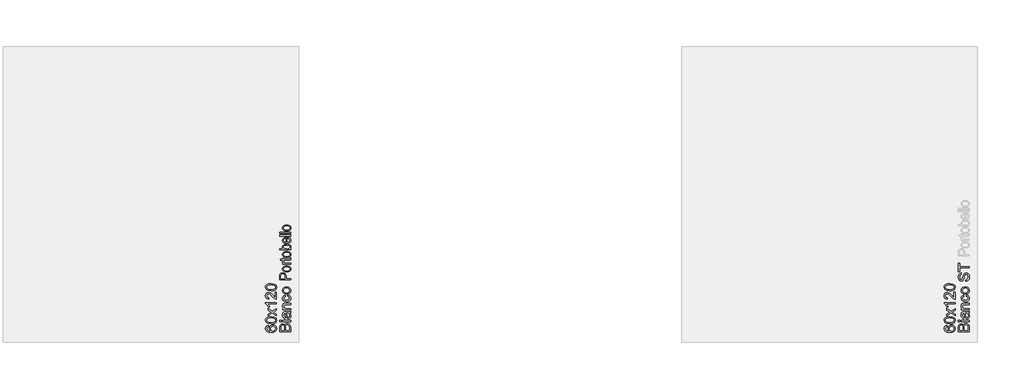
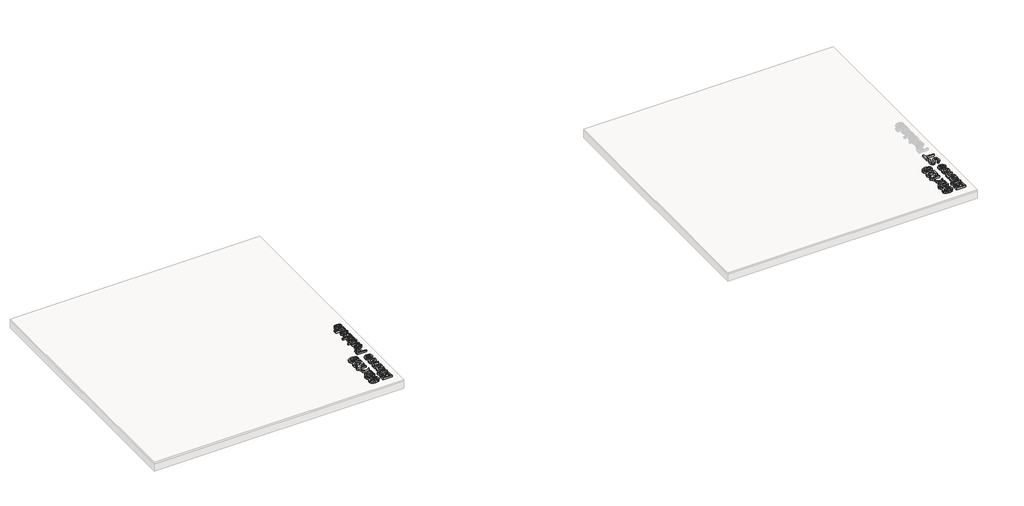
# One storey, part 9 of 14: 5 proxies.
"""IFC4 building model written with IfcOpenShell, lengths in millimetres."""

from ifc_helpers import new_model, si_unit, frame, origin, place, context, project, spatial, polyline, outline, extrude, element, save

model = new_model("IFC4")

# Units and contexts
model_context = context("Model", 3, world=origin())
ifc_project = project(units=[si_unit("LENGTHUNIT", "METRE", prefix="MILLI")], contexts=[model_context])

# Site, building, storey
site = spatial("IfcSite", under=ifc_project)
building = spatial("IfcBuilding", under=site)
storey = spatial("IfcBuildingStorey", under=building, Name="PORTOBELLO - SHOWROOM", Elevation=0.0)

# Proxies
placement = place(None, origin())
element("IfcBuildingElementProxy", 1, Name="10mm Arial", ObjectType="10mm Arial", at=placement, inside=storey, context=model_context, shape_type="SweptSolid", body=[
    extrude(outline(polyline([(-10552.2181326, 11229.8621307), (-10652.6744428, 11229.8621307), (-10652.6744428, 11268.1954346), (-10649.7191241, 11286.9696791), (-10640.6324388, 11298.0551899), (-10627.7810945, 11302.0651036), (-10616.0456588, 11298.692852), (-10607.1551773, 11288.5025207), (-10597.7864491, 11300.8756185), (-10582.1637271, 11305.2043633), (-10568.6624578, 11302.2490446), (-10559.048475, 11294.9281929), (-10553.947178, 11284.0020977), (-10552.2181326, 11267.901129), (-10552.2181326, 11229.8621307)]), holes=[polyline([(-10611.8640668, 11242.4191695), (-10611.8640668, 11265.3504805), (-10612.9431873, 11278.7413851), (-10617.5907632, 11286.7980008), (-10625.7700062, 11289.5080648), (-10633.961512, 11286.9819418), (-10638.8052916, 11279.7469292), (-10640.117404, 11263.6091724), (-10640.117404, 11242.4191695), (-10611.8640668, 11242.4191695)]), polyline([(-10564.7751714, 11242.4191695), (-10564.7751714, 11268.1709091), (-10565.2656807, 11277.4905863), (-10568.0002702, 11285.3755238), (-10573.5798138, 11290.5994481), (-10582.0410997, 11292.6473245), (-10591.8022353, 11290.2438288), (-10597.6270336, 11282.4569933), (-10599.307028, 11266.9446358), (-10599.307028, 11242.4191695), (-10564.7751714, 11242.4191695)])]), frame((0.0, 0.0, 19.0), z_axis=(0.0, 0.0, 1.0), x_axis=(1.0, 0.0, 0.0)), (0.0, 0.0, 1.0), 20.0),
    extrude(outline(polyline([(-10640.117404, 11320.9006618), (-10652.6744428, 11320.9006618), (-10652.6744428, 11333.4577005), (-10640.117404, 11333.4577005), (-10640.117404, 11320.9006618)])), frame((0.0, 0.0, 19.0), z_axis=(0.0, 0.0, 1.0), x_axis=(1.0, 0.0, 0.0)), (0.0, 0.0, 1.0), 20.0),
    extrude(outline(polyline([(-10552.2181326, 11320.9006618), (-10625.9907354, 11320.9006618), (-10625.9907354, 11333.4577005), (-10552.2181326, 11333.4577005), (-10552.2181326, 11320.9006618)])), frame((0.0, 0.0, 19.0), z_axis=(0.0, 0.0, 1.0), x_axis=(1.0, 0.0, 0.0)), (0.0, 0.0, 1.0), 20.0),
    extrude(outline(polyline([(-10561.6359117, 11399.3821541), (-10553.1255749, 11387.20526), (-10550.6485028, 11373.7530417), (-10552.1384249, 11363.2592078), (-10556.6081911, 11355.5183575), (-10563.3956139, 11350.7450886), (-10571.8385057, 11349.153999), (-10581.7713196, 11351.5574947), (-10588.9818067, 11357.8728023), (-10593.102085, 11366.665182), (-10594.990546, 11377.5299636), (-10599.307028, 11399.3085777), (-10602.1029312, 11399.3821541), (-10611.3735575, 11395.9240633), (-10615.0033265, 11382.0426494), (-10612.5875681, 11369.3384578), (-10604.0159176, 11363.2806676), (-10605.5855474, 11350.7236288), (-10617.8482806, 11356.1560196), (-10625.0342422, 11367.0943776), (-10627.5603653, 11383.6613301), (-10625.3285478, 11398.879382), (-10619.7244788, 11407.475558), (-10611.2018792, 11411.3260562), (-10600.2144703, 11411.9391928), (-10584.5917482, 11411.9391928), (-10562.7763459, 11412.576855), (-10552.2181326, 11415.0784525), (-10552.2181326, 11402.5214138), (-10561.6359117, 11399.3821541)]), holes=[polyline([(-10586.7499893, 11399.3821541), (-10582.899491, 11379.1241189), (-10580.8638773, 11368.3206509), (-10577.5529394, 11363.4278204), (-10572.7214225, 11361.7110378), (-10565.9278683, 11365.4511714), (-10563.2055416, 11376.4263176), (-10566.2099112, 11389.1305091), (-10573.481712, 11397.3220149), (-10583.1937966, 11399.3085777), (-10586.7499893, 11399.3821541)])]), frame((0.0, 0.0, 19.0), z_axis=(0.0, 0.0, 1.0), x_axis=(1.0, 0.0, 0.0)), (0.0, 0.0, 1.0), 20.0),
    extrude(outline(polyline([(-10552.2181326, 11429.2051211), (-10625.9907354, 11429.2051211), (-10625.9907354, 11441.7621599), (-10615.6900395, 11441.7621599), (-10624.5927838, 11451.36388), (-10627.5603653, 11464.4727418), (-10625.1691323, 11476.3308047), (-10618.8906129, 11484.4242086), (-10609.6567748, 11488.1888677), (-10597.516669, 11488.8510553), (-10552.2181326, 11488.8510553), (-10552.2181326, 11476.2940165), (-10595.8244118, 11476.2940165), (-10606.9344481, 11474.847014), (-10612.8082973, 11469.7334543), (-10615.0033265, 11461.1127529), (-10610.0737078, 11447.4888563), (-10602.9306657, 11443.193834), (-10591.3607769, 11441.7621599), (-10552.2181326, 11441.7621599), (-10552.2181326, 11429.2051211)])), frame((0.0, 0.0, 19.0), z_axis=(0.0, 0.0, 1.0), x_axis=(1.0, 0.0, 0.0)), (0.0, 0.0, 1.0), 20.0),
    extrude(outline(polyline([(-10578.90184, 11553.205879), (-10577.3322102, 11565.7629178), (-10566.1639259, 11562.2619074), (-10557.7240998, 11555.6829511), (-10552.4174021, 11546.6453167), (-10550.6485028, 11535.7682724), (-10553.1163779, 11522.4110903), (-10560.520003, 11511.9663073), (-10572.5344158, 11505.2248698), (-10588.8346539, 11502.9777239), (-10609.693563, 11506.8159594), (-10623.0967304, 11518.5146068), (-10627.5603653, 11535.5965942), (-10626.0275236, 11546.206924), (-10621.4289987, 11554.6896697), (-10614.0100451, 11560.775051), (-10604.0159176, 11564.1932879), (-10602.4462877, 11551.6362491), (-10611.8518041, 11545.8114509), (-10615.0033265, 11535.694696), (-10613.4520907, 11527.5798323), (-10608.7983835, 11521.1388317), (-10600.7908187, 11516.9357799), (-10589.1780104, 11515.5347627), (-10577.4088523, 11516.9051231), (-10569.3736964, 11521.0162044), (-10564.7475803, 11527.340709), (-10563.2055416, 11535.3513395), (-10567.0560398, 11547.184877), (-10578.90184, 11553.205879)])), frame((0.0, 0.0, 19.0), z_axis=(0.0, 0.0, 1.0), x_axis=(1.0, 0.0, 0.0)), (0.0, 0.0, 1.0), 20.0),
    extrude(outline(polyline([(-10589.104434, 11573.611067), (-10606.8915285, 11576.3272624), (-10619.393385, 11584.4758486), (-10625.5186202, 11594.5435525), (-10627.5603653, 11606.5978192), (-10625.0740961, 11619.7894544), (-10617.6152887, 11630.3262079), (-10605.7725541, 11637.2331924), (-10590.1345036, 11639.5355205), (-10567.7918038, 11635.4642931), (-10555.1489259, 11623.6062301), (-10550.6485028, 11606.5978192), (-10553.1255749, 11593.2467685), (-10560.5567912, 11582.7222777), (-10572.6478461, 11575.8888697), (-10589.104434, 11573.611067)]), holes=[polyline([(-10589.1289595, 11586.1681058), (-10577.7644715, 11587.6212396), (-10569.668002, 11591.9806413), (-10564.8211567, 11598.5412035), (-10563.2055416, 11606.5978192), (-10564.8303537, 11614.6176467), (-10569.7047902, 11621.1659462), (-10577.9085586, 11625.5253479), (-10589.521367, 11626.9784818), (-10600.5547611, 11625.5161508), (-10608.5408661, 11621.129158), (-10613.3877114, 11614.5716615), (-10615.0033265, 11606.5978192), (-10613.3938428, 11598.5412035), (-10608.5653916, 11591.9806413), (-10600.4873161, 11587.6212396), (-10589.1289595, 11586.1681058)])]), frame((0.0, 0.0, 19.0), z_axis=(0.0, 0.0, 1.0), x_axis=(1.0, 0.0, 0.0)), (0.0, 0.0, 1.0), 20.0),
])
element("IfcBuildingElementProxy", 2, Name="10mm Arial", ObjectType="10mm Arial", at=placement, inside=storey, context=model_context, shape_type="SweptSolid", body=[
    extrude(outline(polyline([(-10755.9907354, 11289.5080648), (-10754.4211056, 11276.9510261), (-10764.8934797, 11272.1930856), (-10770.117404, 11259.6115214), (-10767.0762462, 11248.2807559), (-10755.6596416, 11239.7091054), (-10733.2801536, 11236.1406501), (-10743.2988066, 11247.2138981), (-10746.5729563, 11260.9358966), (-10744.3350075, 11272.5364421), (-10737.6211611, 11282.2730523), (-10727.3633848, 11288.8765341), (-10714.4936464, 11291.0776947), (-10697.1664044, 11286.9328909), (-10684.9036712, 11275.528549), (-10680.6485028, 11259.0719611), (-10683.4689314, 11244.8257308), (-10691.9302173, 11233.479637), (-10706.8662263, 11226.0576177), (-10729.1108243, 11223.5836113), (-10754.1206686, 11226.3304635), (-10771.22105, 11234.5710202), (-10779.8110946, 11245.8220779), (-10782.6744428, 11260.3963363), (-10780.9024779, 11271.414402), (-10775.586583, 11280.2374386), (-10767.1436912, 11286.4178561), (-10755.9907354, 11289.5080648)]), holes=[polyline([(-10714.6898501, 11236.1406501), (-10703.8128058, 11239.0469178), (-10695.9156056, 11246.7724397), (-10693.2055416, 11258.0909425), (-10694.6096245, 11266.3774844), (-10698.8218734, 11272.8920614), (-10705.4437493, 11277.1135073), (-10714.0767134, 11278.5206559), (-10722.3632554, 11277.1319014), (-10728.6816286, 11272.9656378), (-10732.6823453, 11266.3406962), (-10734.0159176, 11257.5759077), (-10728.6816286, 11242.3823813), (-10722.5165395, 11237.7010829), (-10714.6898501, 11236.1406501)])]), frame((0.0, 0.0, 19.0), z_axis=(0.0, 0.0, 1.0), x_axis=(1.0, 0.0, 0.0)), (0.0, 0.0, 1.0), 20.0),
    extrude(outline(polyline([(-10731.6369473, 11302.0651036), (-10760.5402094, 11305.7561863), (-10777.2052638, 11316.7190698), (-10782.6744428, 11335.0273304), (-10779.4370812, 11349.6935593), (-10770.1051413, 11359.8225769), (-10755.2427087, 11365.7086888), (-10731.6369473, 11367.9895571), (-10702.8563126, 11364.3352627), (-10686.15447, 11353.4091674), (-10682.0249946, 11345.1778078), (-10680.6485028, 11335.0273304), (-10683.0397358, 11321.9797823), (-10690.2134347, 11312.0714939), (-10707.2034515, 11304.5667012), (-10731.6369473, 11302.0651036)]), holes=[polyline([(-10731.6614728, 11314.6221424), (-10711.9092753, 11316.0936704), (-10700.4773423, 11320.5082543), (-10695.0234918, 11327.0810793), (-10693.2055416, 11335.0273304), (-10695.0296231, 11342.9735815), (-10700.5018678, 11349.5464065), (-10711.9399322, 11353.9609904), (-10731.6614728, 11355.4325184), (-10750.9691462, 11354.0100413), (-10762.489984, 11349.7426102), (-10768.210549, 11343.1820479), (-10770.117404, 11334.8801776), (-10768.4374096, 11327.0197656), (-10763.3974263, 11320.704458), (-10751.1592185, 11316.1427213), (-10731.6614728, 11314.6221424)])]), frame((0.0, 0.0, 19.0), z_axis=(0.0, 0.0, 1.0), x_axis=(1.0, 0.0, 0.0)), (0.0, 0.0, 1.0), 20.0),
    extrude(outline(polyline([(-10682.2181326, 11374.2680765), (-10719.3251632, 11401.0989367), (-10755.9907354, 11375.8377064), (-10755.9907354, 11390.8963427), (-10738.3078742, 11403.0854995), (-10729.9937411, 11408.7999331), (-10736.8118207, 11413.7540773), (-10755.9907354, 11427.6354913), (-10755.9907354, 11442.7431786), (-10719.3006378, 11416.206624), (-10682.2181326, 11441.7621599), (-10682.2181326, 11426.6789981), (-10704.536307, 11411.2770052), (-10708.6320599, 11408.4811021), (-10682.2181326, 11389.3757638), (-10682.2181326, 11374.2680765)])), frame((0.0, 0.0, 19.0), z_axis=(0.0, 0.0, 1.0), x_axis=(1.0, 0.0, 0.0)), (0.0, 0.0, 1.0), 20.0),
    extrude(outline(polyline([(-10682.2181326, 11496.6992045), (-10682.2181326, 11484.1421658), (-10760.5034212, 11484.1421658), (-10752.0298726, 11472.2473146), (-10745.6900395, 11459.0280882), (-10757.5603653, 11459.0280882), (-10769.3080636, 11477.4344507), (-10782.6744428, 11488.6058006), (-10782.6744428, 11496.6992045), (-10682.2181326, 11496.6992045)])), frame((0.0, 0.0, 19.0), z_axis=(0.0, 0.0, 1.0), x_axis=(1.0, 0.0, 0.0)), (0.0, 0.0, 1.0), 20.0),
    extrude(outline(polyline([(-10694.7751714, 11590.8769953), (-10682.2181326, 11590.8769953), (-10682.2181326, 11524.9525418), (-10690.8756223, 11526.3014424), (-10704.2052132, 11533.9411252), (-10718.7610775, 11549.6742118), (-10739.6813003, 11571.3424614), (-10753.9060708, 11576.7503267), (-10765.4207772, 11571.6367669), (-10770.117404, 11558.2826505), (-10765.5311418, 11544.3644484), (-10752.8514757, 11539.0792104), (-10754.4211056, 11526.5221716), (-10766.5673428, 11529.5663951), (-10775.4394302, 11536.1484171), (-10780.8656897, 11545.9248812), (-10782.6744428, 11558.5524307), (-10780.6633546, 11571.2719506), (-10774.6300898, 11581.0300206), (-10765.616981, 11587.2380292), (-10754.6663602, 11589.3073654), (-10742.7592463, 11587.075548), (-10730.4474622, 11579.6565944), (-10713.2428476, 11561.6671649), (-10701.1640554, 11547.2216652), (-10694.7751714, 11541.5562825), (-10694.7751714, 11590.8769953)])), frame((0.0, 0.0, 19.0), z_axis=(0.0, 0.0, 1.0), x_axis=(1.0, 0.0, 0.0)), (0.0, 0.0, 1.0), 20.0),
    extrude(outline(polyline([(-10731.6369473, 11603.4340341), (-10760.5402094, 11607.1251167), (-10777.2052638, 11618.0880002), (-10782.6744428, 11636.3962608), (-10779.4370812, 11651.0624897), (-10770.1051413, 11661.1915073), (-10755.2427087, 11667.0776192), (-10731.6369473, 11669.3584876), (-10702.8563126, 11665.7041931), (-10686.15447, 11654.7780979), (-10682.0249946, 11646.5467382), (-10680.6485028, 11636.3962608), (-10683.0397358, 11623.3487127), (-10690.2134347, 11613.4404243), (-10707.2034515, 11605.9356316), (-10731.6369473, 11603.4340341)]), holes=[polyline([(-10731.6614728, 11615.9910728), (-10711.9092753, 11617.4626008), (-10700.4773423, 11621.8771848), (-10695.0234918, 11628.4500097), (-10693.2055416, 11636.3962608), (-10695.0296231, 11644.3425119), (-10700.5018678, 11650.9153369), (-10711.9399322, 11655.3299208), (-10731.6614728, 11656.8014488), (-10750.9691462, 11655.3789718), (-10762.489984, 11651.1115406), (-10768.210549, 11644.5509784), (-10770.117404, 11636.249108), (-10768.4374096, 11628.3886961), (-10763.3974263, 11622.0733885), (-10751.1592185, 11617.5116517), (-10731.6614728, 11615.9910728)])]), frame((0.0, 0.0, 19.0), z_axis=(0.0, 0.0, 1.0), x_axis=(1.0, 0.0, 0.0)), (0.0, 0.0, 1.0), 20.0),
])
element("IfcBuildingElementProxy", 3, Name="10mm Arial", ObjectType="10mm Arial", at=placement, inside=storey, context=model_context, shape_type="SweptSolid", body=[
    extrude(outline(polyline([(-4352.1931166, 11229.8621307), (-4452.6494267, 11229.8621307), (-4452.6494267, 11268.1954346), (-4449.694108, 11286.9696791), (-4440.6074227, 11298.0551899), (-4427.7560784, 11302.0651036), (-4416.0206427, 11298.692852), (-4407.1301612, 11288.5025207), (-4397.761433, 11300.8756185), (-4382.138711, 11305.2043633), (-4368.6374418, 11302.2490446), (-4359.0234589, 11294.9281929), (-4353.9221619, 11284.0020977), (-4352.1931166, 11267.901129), (-4352.1931166, 11229.8621307)]), holes=[polyline([(-4411.8390507, 11242.4191695), (-4411.8390507, 11265.3504805), (-4412.9181712, 11278.7413851), (-4417.5657471, 11286.7980008), (-4425.7449901, 11289.5080648), (-4433.9364959, 11286.9819418), (-4438.7802755, 11279.7469292), (-4440.0923879, 11263.6091724), (-4440.0923879, 11242.4191695), (-4411.8390507, 11242.4191695)]), polyline([(-4364.7501553, 11242.4191695), (-4364.7501553, 11268.1709091), (-4365.2406647, 11277.4905863), (-4367.9752542, 11285.3755238), (-4373.5547978, 11290.5994481), (-4382.0160836, 11292.6473245), (-4391.7772192, 11290.2438288), (-4397.6020175, 11282.4569933), (-4399.2820119, 11266.9446358), (-4399.2820119, 11242.4191695), (-4364.7501553, 11242.4191695)])]), frame((0.0, 0.0, 19.0), z_axis=(0.0, 0.0, 1.0), x_axis=(1.0, 0.0, 0.0)), (0.0, 0.0, 1.0), 20.0),
    extrude(outline(polyline([(-4440.0923879, 11320.9006618), (-4452.6494267, 11320.9006618), (-4452.6494267, 11333.4577005), (-4440.0923879, 11333.4577005), (-4440.0923879, 11320.9006618)])), frame((0.0, 0.0, 19.0), z_axis=(0.0, 0.0, 1.0), x_axis=(1.0, 0.0, 0.0)), (0.0, 0.0, 1.0), 20.0),
    extrude(outline(polyline([(-4352.1931166, 11320.9006618), (-4425.9657193, 11320.9006618), (-4425.9657193, 11333.4577005), (-4352.1931166, 11333.4577005), (-4352.1931166, 11320.9006618)])), frame((0.0, 0.0, 19.0), z_axis=(0.0, 0.0, 1.0), x_axis=(1.0, 0.0, 0.0)), (0.0, 0.0, 1.0), 20.0),
    extrude(outline(polyline([(-4361.6108956, 11399.3821541), (-4353.1005588, 11387.20526), (-4350.6234867, 11373.7530417), (-4352.1134088, 11363.2592078), (-4356.583175, 11355.5183575), (-4363.3705979, 11350.7450886), (-4371.8134896, 11349.153999), (-4381.7463035, 11351.5574947), (-4388.9567906, 11357.8728023), (-4393.077069, 11366.665182), (-4394.9655299, 11377.5299636), (-4399.2820119, 11399.3085777), (-4402.0779151, 11399.3821541), (-4411.3485414, 11395.9240633), (-4414.9783104, 11382.0426494), (-4412.562552, 11369.3384578), (-4403.9909015, 11363.2806676), (-4405.5605313, 11350.7236288), (-4417.8232645, 11356.1560196), (-4425.0092261, 11367.0943776), (-4427.5353492, 11383.6613301), (-4425.3035317, 11398.879382), (-4419.6994627, 11407.475558), (-4411.1768631, 11411.3260562), (-4400.1894542, 11411.9391928), (-4384.5667321, 11411.9391928), (-4362.7513298, 11412.576855), (-4352.1931166, 11415.0784525), (-4352.1931166, 11402.5214138), (-4361.6108956, 11399.3821541)]), holes=[polyline([(-4386.7249732, 11399.3821541), (-4382.874475, 11379.1241189), (-4380.8388613, 11368.3206509), (-4377.5279233, 11363.4278204), (-4372.6964064, 11361.7110378), (-4365.9028523, 11365.4511714), (-4363.1805255, 11376.4263176), (-4366.1848951, 11389.1305091), (-4373.4566959, 11397.3220149), (-4383.1687806, 11399.3085777), (-4386.7249732, 11399.3821541)])]), frame((0.0, 0.0, 19.0), z_axis=(0.0, 0.0, 1.0), x_axis=(1.0, 0.0, 0.0)), (0.0, 0.0, 1.0), 20.0),
    extrude(outline(polyline([(-4352.1931166, 11429.2051211), (-4425.9657193, 11429.2051211), (-4425.9657193, 11441.7621599), (-4415.6650235, 11441.7621599), (-4424.5677678, 11451.36388), (-4427.5353492, 11464.4727418), (-4425.1441162, 11476.3308047), (-4418.8655968, 11484.4242086), (-4409.6317587, 11488.1888677), (-4397.4916529, 11488.8510553), (-4352.1931166, 11488.8510553), (-4352.1931166, 11476.2940165), (-4395.7993957, 11476.2940165), (-4406.909432, 11474.847014), (-4412.7832812, 11469.7334543), (-4414.9783104, 11461.1127529), (-4410.0486917, 11447.4888563), (-4402.9056496, 11443.193834), (-4391.3357609, 11441.7621599), (-4352.1931166, 11441.7621599), (-4352.1931166, 11429.2051211)])), frame((0.0, 0.0, 19.0), z_axis=(0.0, 0.0, 1.0), x_axis=(1.0, 0.0, 0.0)), (0.0, 0.0, 1.0), 20.0),
    extrude(outline(polyline([(-4378.8768239, 11553.205879), (-4377.3071941, 11565.7629178), (-4366.1389099, 11562.2619074), (-4357.6990838, 11555.6829511), (-4352.392386, 11546.6453167), (-4350.6234867, 11535.7682724), (-4353.0913618, 11522.4110903), (-4360.4949869, 11511.9663073), (-4372.5093997, 11505.2248698), (-4388.8096378, 11502.9777239), (-4409.6685469, 11506.8159594), (-4423.0717143, 11518.5146068), (-4427.5353492, 11535.5965942), (-4426.0025075, 11546.206924), (-4421.4039826, 11554.6896697), (-4413.985029, 11560.775051), (-4403.9909015, 11564.1932879), (-4402.4212716, 11551.6362491), (-4411.826788, 11545.8114509), (-4414.9783104, 11535.694696), (-4413.4270747, 11527.5798323), (-4408.7733674, 11521.1388317), (-4400.7658027, 11516.9357799), (-4389.1529943, 11515.5347627), (-4377.3838362, 11516.9051231), (-4369.3486803, 11521.0162044), (-4364.7225642, 11527.340709), (-4363.1805255, 11535.3513395), (-4367.0310237, 11547.184877), (-4378.8768239, 11553.205879)])), frame((0.0, 0.0, 19.0), z_axis=(0.0, 0.0, 1.0), x_axis=(1.0, 0.0, 0.0)), (0.0, 0.0, 1.0), 20.0),
    extrude(outline(polyline([(-4389.0794179, 11573.611067), (-4406.8665124, 11576.3272624), (-4419.3683689, 11584.4758486), (-4425.4936041, 11594.5435525), (-4427.5353492, 11606.5978192), (-4425.04908, 11619.7894544), (-4417.5902726, 11630.3262079), (-4405.747538, 11637.2331924), (-4390.1094875, 11639.5355205), (-4367.7667877, 11635.4642931), (-4355.1239098, 11623.6062301), (-4350.6234867, 11606.5978192), (-4353.1005588, 11593.2467685), (-4360.5317751, 11582.7222777), (-4372.62283, 11575.8888697), (-4389.0794179, 11573.611067)]), holes=[polyline([(-4389.1039434, 11586.1681058), (-4377.7394554, 11587.6212396), (-4369.6429859, 11591.9806413), (-4364.7961406, 11598.5412035), (-4363.1805255, 11606.5978192), (-4364.8053376, 11614.6176467), (-4369.6797741, 11621.1659462), (-4377.8835426, 11625.5253479), (-4389.4963509, 11626.9784818), (-4400.529745, 11625.5161508), (-4408.51585, 11621.129158), (-4413.3626953, 11614.5716615), (-4414.9783104, 11606.5978192), (-4413.3688267, 11598.5412035), (-4408.5403755, 11591.9806413), (-4400.4623, 11587.6212396), (-4389.1039434, 11586.1681058)])]), frame((0.0, 0.0, 19.0), z_axis=(0.0, 0.0, 1.0), x_axis=(1.0, 0.0, 0.0)), (0.0, 0.0, 1.0), 20.0),
    extrude(outline(polyline([(-4386.7249732, 11689.7636756), (-4386.7249732, 11702.3207144), (-4374.1556717, 11706.3674163), (-4366.2094206, 11716.2511793), (-4363.1805255, 11731.3098156), (-4365.4736566, 11744.4309401), (-4371.7767014, 11752.9044887), (-4380.2011991, 11755.6881291), (-4388.0370856, 11753.6034645), (-4393.7392566, 11745.0686022), (-4398.5339852, 11726.784867), (-4404.7266655, 11707.1031803), (-4414.0708682, 11696.4223397), (-4426.5543305, 11692.9029353), (-4440.7668383, 11697.2562056), (-4450.797754, 11709.9726599), (-4454.2190566, 11728.5874888), (-4450.6383385, 11748.4531166), (-4440.1169134, 11761.6968684), (-4424.3960895, 11766.6755381), (-4424.3960895, 11754.1184993), (-4431.8886195, 11751.8131055), (-4437.2964848, 11747.006114), (-4441.6620178, 11729.0779981), (-4437.3455357, 11711.1008313), (-4426.9222125, 11705.4599741), (-4418.215672, 11709.4576251), (-4411.2013886, 11729.9609149), (-4404.8983437, 11752.1809874), (-4394.7202752, 11764.333356), (-4380.5200302, 11768.2451679), (-4365.4981821, 11763.7447448), (-4354.5352986, 11750.7952986), (-4350.6234867, 11731.8003249), (-4354.8418669, 11709.3717859), (-4367.5460585, 11695.1838037), (-4386.7249732, 11689.7636756)])), frame((0.0, 0.0, 19.0), z_axis=(0.0, 0.0, 1.0), x_axis=(1.0, 0.0, 0.0)), (0.0, 0.0, 1.0), 20.0),
    extrude(outline(polyline([(-4352.1931166, 11812.1948036), (-4440.0923879, 11812.1948036), (-4440.0923879, 11779.2325768), (-4452.6494267, 11779.2325768), (-4452.6494267, 11857.7140691), (-4440.0923879, 11857.7140691), (-4440.0923879, 11824.7518424), (-4352.1931166, 11824.7518424), (-4352.1931166, 11812.1948036)])), frame((0.0, 0.0, 19.0), z_axis=(0.0, 0.0, 1.0), x_axis=(1.0, 0.0, 0.0)), (0.0, 0.0, 1.0), 20.0),
])
element("IfcBuildingElementProxy", 4, Name="10mm Arial", ObjectType="10mm Arial", at=placement, inside=storey, context=model_context, shape_type="SweptSolid", body=[
    extrude(outline(polyline([(-4555.9657193, 11289.5080648), (-4554.3960895, 11276.9510261), (-4564.8684636, 11272.1930856), (-4570.0923879, 11259.6115214), (-4567.0512301, 11248.2807559), (-4555.6346255, 11239.7091054), (-4533.2551375, 11236.1406501), (-4543.2737905, 11247.2138981), (-4546.5479403, 11260.9358966), (-4544.3099915, 11272.5364421), (-4537.596145, 11282.2730523), (-4527.3383687, 11288.8765341), (-4514.4686303, 11291.0776947), (-4497.1413883, 11286.9328909), (-4484.8786551, 11275.528549), (-4480.6234867, 11259.0719611), (-4483.4439153, 11244.8257308), (-4491.9052012, 11233.479637), (-4506.8412102, 11226.0576177), (-4529.0858082, 11223.5836113), (-4554.0956525, 11226.3304635), (-4571.1960339, 11234.5710202), (-4579.7860785, 11245.8220779), (-4582.6494267, 11260.3963363), (-4580.8774618, 11271.414402), (-4575.5615669, 11280.2374386), (-4567.1186752, 11286.4178561), (-4555.9657193, 11289.5080648)]), holes=[polyline([(-4514.664834, 11236.1406501), (-4503.7877897, 11239.0469178), (-4495.8905895, 11246.7724397), (-4493.1805255, 11258.0909425), (-4494.5846084, 11266.3774844), (-4498.7968573, 11272.8920614), (-4505.4187332, 11277.1135073), (-4514.0516973, 11278.5206559), (-4522.3382393, 11277.1319014), (-4528.6566126, 11272.9656378), (-4532.6573293, 11266.3406962), (-4533.9909015, 11257.5759077), (-4528.6566126, 11242.3823813), (-4522.4915235, 11237.7010829), (-4514.664834, 11236.1406501)])]), frame((0.0, 0.0, 19.0), z_axis=(0.0, 0.0, 1.0), x_axis=(1.0, 0.0, 0.0)), (0.0, 0.0, 1.0), 20.0),
    extrude(outline(polyline([(-4531.6119313, 11302.0651036), (-4560.5151933, 11305.7561863), (-4577.1802477, 11316.7190698), (-4582.6494267, 11335.0273304), (-4579.4120652, 11349.6935593), (-4570.0801252, 11359.8225769), (-4555.2176926, 11365.7086888), (-4531.6119313, 11367.9895571), (-4502.8312965, 11364.3352627), (-4486.1294539, 11353.4091674), (-4481.9999785, 11345.1778078), (-4480.6234867, 11335.0273304), (-4483.0147197, 11321.9797823), (-4490.1884186, 11312.0714939), (-4507.1784354, 11304.5667012), (-4531.6119313, 11302.0651036)]), holes=[polyline([(-4531.6364567, 11314.6221424), (-4511.8842593, 11316.0936704), (-4500.4523263, 11320.5082543), (-4494.9984757, 11327.0810793), (-4493.1805255, 11335.0273304), (-4495.004607, 11342.9735815), (-4500.4768517, 11349.5464065), (-4511.9149161, 11353.9609904), (-4531.6364567, 11355.4325184), (-4550.9441301, 11354.0100413), (-4562.4649679, 11349.7426102), (-4568.1855329, 11343.1820479), (-4570.0923879, 11334.8801776), (-4568.4123935, 11327.0197656), (-4563.3724102, 11320.704458), (-4551.1342025, 11316.1427213), (-4531.6364567, 11314.6221424)])]), frame((0.0, 0.0, 19.0), z_axis=(0.0, 0.0, 1.0), x_axis=(1.0, 0.0, 0.0)), (0.0, 0.0, 1.0), 20.0),
    extrude(outline(polyline([(-4482.1931166, 11374.2680765), (-4519.3001471, 11401.0989367), (-4555.9657193, 11375.8377064), (-4555.9657193, 11390.8963427), (-4538.2828581, 11403.0854995), (-4529.968725, 11408.7999331), (-4536.7868047, 11413.7540773), (-4555.9657193, 11427.6354913), (-4555.9657193, 11442.7431786), (-4519.2756217, 11416.206624), (-4482.1931166, 11441.7621599), (-4482.1931166, 11426.6789981), (-4504.5112909, 11411.2770052), (-4508.6070438, 11408.4811021), (-4482.1931166, 11389.3757638), (-4482.1931166, 11374.2680765)])), frame((0.0, 0.0, 19.0), z_axis=(0.0, 0.0, 1.0), x_axis=(1.0, 0.0, 0.0)), (0.0, 0.0, 1.0), 20.0),
    extrude(outline(polyline([(-4482.1931166, 11496.6992045), (-4482.1931166, 11484.1421658), (-4560.4784051, 11484.1421658), (-4552.0048565, 11472.2473146), (-4545.6650235, 11459.0280882), (-4557.5353492, 11459.0280882), (-4569.2830476, 11477.4344507), (-4582.6494267, 11488.6058006), (-4582.6494267, 11496.6992045), (-4482.1931166, 11496.6992045)])), frame((0.0, 0.0, 19.0), z_axis=(0.0, 0.0, 1.0), x_axis=(1.0, 0.0, 0.0)), (0.0, 0.0, 1.0), 20.0),
    extrude(outline(polyline([(-4494.7501553, 11590.8769953), (-4482.1931166, 11590.8769953), (-4482.1931166, 11524.9525418), (-4490.8506062, 11526.3014424), (-4504.1801971, 11533.9411252), (-4518.7360614, 11549.6742118), (-4539.6562842, 11571.3424614), (-4553.8810547, 11576.7503267), (-4565.3957611, 11571.6367669), (-4570.0923879, 11558.2826505), (-4565.5061257, 11544.3644484), (-4552.8264596, 11539.0792104), (-4554.3960895, 11526.5221716), (-4566.5423267, 11529.5663951), (-4575.4144141, 11536.1484171), (-4580.8406736, 11545.9248812), (-4582.6494267, 11558.5524307), (-4580.6383385, 11571.2719506), (-4574.6050738, 11581.0300206), (-4565.5919649, 11587.2380292), (-4554.6413441, 11589.3073654), (-4542.7342302, 11587.075548), (-4530.4224461, 11579.6565944), (-4513.2178315, 11561.6671649), (-4501.1390393, 11547.2216652), (-4494.7501553, 11541.5562825), (-4494.7501553, 11590.8769953)])), frame((0.0, 0.0, 19.0), z_axis=(0.0, 0.0, 1.0), x_axis=(1.0, 0.0, 0.0)), (0.0, 0.0, 1.0), 20.0),
    extrude(outline(polyline([(-4531.6119313, 11603.4340341), (-4560.5151933, 11607.1251167), (-4577.1802477, 11618.0880002), (-4582.6494267, 11636.3962608), (-4579.4120652, 11651.0624897), (-4570.0801252, 11661.1915073), (-4555.2176926, 11667.0776192), (-4531.6119313, 11669.3584876), (-4502.8312965, 11665.7041931), (-4486.1294539, 11654.7780979), (-4481.9999785, 11646.5467382), (-4480.6234867, 11636.3962608), (-4483.0147197, 11623.3487127), (-4490.1884186, 11613.4404243), (-4507.1784354, 11605.9356316), (-4531.6119313, 11603.4340341)]), holes=[polyline([(-4531.6364567, 11615.9910728), (-4511.8842593, 11617.4626008), (-4500.4523263, 11621.8771848), (-4494.9984757, 11628.4500097), (-4493.1805255, 11636.3962608), (-4495.004607, 11644.3425119), (-4500.4768517, 11650.9153369), (-4511.9149161, 11655.3299208), (-4531.6364567, 11656.8014488), (-4550.9441301, 11655.3789718), (-4562.4649679, 11651.1115406), (-4568.1855329, 11644.5509784), (-4570.0923879, 11636.249108), (-4568.4123935, 11628.3886961), (-4563.3724102, 11622.0733885), (-4551.1342025, 11617.5116517), (-4531.6364567, 11615.9910728)])]), frame((0.0, 0.0, 19.0), z_axis=(0.0, 0.0, 1.0), x_axis=(1.0, 0.0, 0.0)), (0.0, 0.0, 1.0), 20.0),
])
element("IfcBuildingElementProxy", 5, Name="10mm Arial Narrow", ObjectType="10mm Arial Narrow", at=placement, inside=storey, context=model_context, shape_type="SweptSolid", body=[
    extrude(outline(polyline([(-10552.2181326, 11704.5809264), (-10652.9367364, 11704.5809264), (-10652.9367364, 11735.8778111), (-10651.0584157, 11752.1735126), (-10641.5779725, 11763.6464987), (-10624.5588637, 11767.9361772), (-10612.4830381, 11766.1498688), (-10602.8566444, 11760.7909436), (-10596.555386, 11751.0471547), (-10594.4549665, 11736.1062555), (-10594.4549665, 11714.3278881), (-10552.2181326, 11714.3278881), (-10552.2181326, 11704.5809264)]), holes=[polyline([(-10605.8264217, 11714.3278881), (-10605.8264217, 11737.299243), (-10610.3572359, 11753.1634384), (-10624.0258267, 11758.1892155), (-10634.1916031, 11755.714401), (-10639.991553, 11749.7367722), (-10641.5652811, 11737.0707986), (-10641.5652811, 11714.3278881), (-10605.8264217, 11714.3278881)])]), frame((0.0, 0.0, 19.0), z_axis=(0.0, 0.0, 1.0), x_axis=(1.0, 0.0, 0.0)), (0.0, 0.0, 1.0), 20.0),
    extrude(outline(polyline([(-10588.7692388, 11776.0586452), (-10605.3600144, 11778.0131141), (-10617.3120992, 11783.8765207), (-10624.5366538, 11792.7350874), (-10626.9448387, 11803.6750366), (-10624.5366538, 11814.4880721), (-10617.3120992, 11823.3720216), (-10605.5503847, 11829.3115763), (-10589.5307202, 11831.2914279), (-10572.3688336, 11829.3464776), (-10560.2263785, 11823.5116265), (-10553.0018239, 11814.6625783), (-10550.593639, 11803.6750366), (-10553.0081696, 11792.8144084), (-10560.2517612, 11783.9399775), (-10572.2101917, 11778.0289783), (-10588.7692388, 11776.0586452)]), holes=[polyline([(-10588.7946216, 11785.8056069), (-10576.2428702, 11787.1096437), (-10567.3716121, 11791.0217543), (-10562.0983535, 11796.8629511), (-10560.3406007, 11803.9542464), (-10562.1142177, 11810.6743196), (-10567.4350689, 11816.3663929), (-10576.3221911, 11820.2499479), (-10588.7946216, 11821.5444663), (-10601.3082989, 11820.2404294), (-10610.1668656, 11816.3283188), (-10615.4401242, 11810.4871221), (-10617.197877, 11803.3958267), (-10615.4306056, 11796.628161), (-10610.1287915, 11790.9456062), (-10601.2607063, 11787.0906067), (-10588.7946216, 11785.8056069)])]), frame((0.0, 0.0, 19.0), z_axis=(0.0, 0.0, 1.0), x_axis=(1.0, 0.0, 0.0)), (0.0, 0.0, 1.0), 20.0),
    extrude(outline(polyline([(-10560.3406007, 11902.7691467), (-10550.593639, 11904.3936403), (-10550.593639, 11897.0326537), (-10552.7130955, 11888.7578893), (-10558.5130454, 11884.4428282), (-10573.1588706, 11883.2752234), (-10615.5733834, 11883.2752234), (-10615.5733834, 11875.1527554), (-10618.8223706, 11875.1527554), (-10613.9488898, 11873.5282617), (-10615.5733834, 11865.9642134), (-10613.2508652, 11859.8850537), (-10606.7655821, 11856.01419), (-10591.3582755, 11854.0343384), (-10552.2181326, 11854.0343384), (-10552.2181326, 11844.2873768), (-10625.320345, 11844.2873768), (-10625.320345, 11854.0343384), (-10615.6241488, 11854.0343384), (-10624.7111599, 11860.2784858), (-10626.9448387, 11866.6749293), (-10625.320345, 11875.1527554), (-10625.320345, 11883.2752234), (-10641.5652811, 11883.2752234), (-10649.6877492, 11893.0221851), (-10625.320345, 11893.0221851), (-10625.320345, 11902.7691467), (-10615.5733834, 11902.7691467), (-10615.5733834, 11893.0221851), (-10570.9251919, 11893.0221851), (-10562.9296374, 11893.8851973), (-10560.3406007, 11898.504851), (-10560.3406007, 11902.7691467)])), frame((0.0, 0.0, 19.0), z_axis=(0.0, 0.0, 1.0), x_axis=(1.0, 0.0, 0.0)), (0.0, 0.0, 1.0), 20.0),
    extrude(outline(polyline([(-10588.7692388, 11909.2671211), (-10605.3600144, 11911.22159), (-10617.3120992, 11917.0849966), (-10624.5366538, 11925.9435633), (-10626.9448387, 11936.8835125), (-10624.5366538, 11947.6965481), (-10617.3120992, 11956.5804975), (-10605.5503847, 11962.5200523), (-10589.5307202, 11964.4999038), (-10572.3688336, 11962.5549535), (-10560.2263785, 11956.7201024), (-10553.0018239, 11947.8710542), (-10550.593639, 11936.8835125), (-10553.0081696, 11926.0228843), (-10560.2517612, 11917.1484534), (-10572.2101917, 11911.2374542), (-10588.7692388, 11909.2671211)]), holes=[polyline([(-10588.7946216, 11919.0140828), (-10576.2428702, 11920.3181197), (-10567.3716121, 11924.2302302), (-10562.0983535, 11930.071427), (-10560.3406007, 11937.1627223), (-10562.1142177, 11943.8827955), (-10567.4350689, 11949.5748688), (-10576.3221911, 11953.4584238), (-10588.7946216, 11954.7529422), (-10601.3082989, 11953.4489053), (-10610.1668656, 11949.5367947), (-10615.4401242, 11943.695598), (-10617.197877, 11936.6043027), (-10615.4306056, 11929.8366369), (-10610.1287915, 11924.1540821), (-10601.2607063, 11920.2990826), (-10588.7946216, 11919.0140828)])]), frame((0.0, 0.0, 19.0), z_axis=(0.0, 0.0, 1.0), x_axis=(1.0, 0.0, 0.0)), (0.0, 0.0, 1.0), 20.0),
    extrude(outline(polyline([(-10552.2181326, 11987.2428144), (-10552.2181326, 11977.4958527), (-10652.9367364, 11977.4958527), (-10652.9367364, 11987.2428144), (-10617.5278523, 11987.2428144), (-10624.6096291, 11994.6418751), (-10626.9448387, 12003.8431084), (-10622.7439997, 12016.7248351), (-10610.0145693, 12026.0022166), (-10589.3276585, 12029.4796482), (-10572.8733151, 12027.5473892), (-10560.670576, 12021.7506122), (-10553.1128733, 12013.3774899), (-10550.593639, 12003.7161949), (-10553.2080584, 11994.3753566), (-10560.9751685, 11987.2428144), (-10552.2181326, 11987.2428144)]), holes=[polyline([(-10589.3276585, 11987.2428144), (-10572.0801053, 11989.3241968), (-10563.3484521, 11995.2129861), (-10560.3406007, 12003.6654295), (-10562.1300819, 12009.608157), (-10567.4985257, 12014.8465144), (-10588.9215351, 12019.7326866), (-10610.3572359, 12015.0241934), (-10615.4877167, 12009.7794904), (-10617.197877, 12003.4623677), (-10615.4083958, 11997.4847389), (-10610.039952, 11992.1924433), (-10589.3276585, 11987.2428144)])]), frame((0.0, 0.0, 19.0), z_axis=(0.0, 0.0, 1.0), x_axis=(1.0, 0.0, 0.0)), (0.0, 0.0, 1.0), 20.0),
    extrude(outline(polyline([(-10574.9610432, 12081.4634437), (-10573.3365496, 12091.2104053), (-10563.449983, 12087.510875), (-10556.3301321, 12081.6918881), (-10552.0277623, 12073.9882348), (-10550.593639, 12064.6347052), (-10553.0081696, 12053.0411512), (-10560.2517612, 12043.897029), (-10572.0578954, 12037.9574742), (-10588.1600537, 12035.9776226), (-10604.8269774, 12037.9669927), (-10617.0075067, 12043.9351031), (-10624.4605057, 12052.9491389), (-10626.9448387, 12064.0762855), (-10624.5461723, 12074.7592347), (-10617.3501733, 12083.5067521), (-10605.6106687, 12089.3416031), (-10589.5814857, 12091.2865535), (-10586.3324984, 12091.2104053), (-10586.3324984, 12045.7245843), (-10566.8893406, 12051.7275958), (-10561.9777857, 12057.6576321), (-10560.3406007, 12064.7616188), (-10563.9957113, 12074.9400865), (-10574.9610432, 12081.4634437)]), holes=[polyline([(-10596.0794601, 12046.3845348), (-10596.0794601, 12081.4634437), (-10610.3445446, 12077.199148), (-10615.4845439, 12071.3738154), (-10617.197877, 12064.1524337), (-10611.4867667, 12051.9433489), (-10596.0794601, 12046.3845348)])]), frame((0.0, 0.0, 19.0), z_axis=(0.0, 0.0, 1.0), x_axis=(1.0, 0.0, 0.0)), (0.0, 0.0, 1.0), 20.0),
    extrude(outline(polyline([(-10552.2181326, 12104.2063542), (-10652.9367364, 12104.2063542), (-10652.9367364, 12113.9533159), (-10552.2181326, 12113.9533159), (-10552.2181326, 12104.2063542)])), frame((0.0, 0.0, 19.0), z_axis=(0.0, 0.0, 1.0), x_axis=(1.0, 0.0, 0.0)), (0.0, 0.0, 1.0), 20.0),
    extrude(outline(polyline([(-10552.2181326, 12130.198252), (-10652.9367364, 12130.198252), (-10652.9367364, 12139.9452136), (-10552.2181326, 12139.9452136), (-10552.2181326, 12130.198252)])), frame((0.0, 0.0, 19.0), z_axis=(0.0, 0.0, 1.0), x_axis=(1.0, 0.0, 0.0)), (0.0, 0.0, 1.0), 20.0),
    extrude(outline(polyline([(-10588.7692388, 12151.3166689), (-10605.3600144, 12153.2711377), (-10617.3120992, 12159.1345444), (-10624.5366538, 12167.9931111), (-10626.9448387, 12178.9330602), (-10624.5366538, 12189.7460958), (-10617.3120992, 12198.6300452), (-10605.5503847, 12204.5696), (-10589.5307202, 12206.5494516), (-10572.3688336, 12204.6045012), (-10560.2263785, 12198.7696502), (-10553.0018239, 12189.920602), (-10550.593639, 12178.9330602), (-10553.0081696, 12168.0724321), (-10560.2517612, 12159.1980011), (-10572.2101917, 12153.2870019), (-10588.7692388, 12151.3166689)]), holes=[polyline([(-10588.7946216, 12161.0636305), (-10576.2428702, 12162.3676674), (-10567.3716121, 12166.279778), (-10562.0983535, 12172.1209747), (-10560.3406007, 12179.2122701), (-10562.1142177, 12185.9323432), (-10567.4350689, 12191.6244165), (-10576.3221911, 12195.5079716), (-10588.7946216, 12196.8024899), (-10601.3082989, 12195.4984531), (-10610.1668656, 12191.5863425), (-10615.4401242, 12185.7451457), (-10617.197877, 12178.6538504), (-10615.4306056, 12171.8861846), (-10610.1287915, 12166.2036298), (-10601.2607063, 12162.3486304), (-10588.7946216, 12161.0636305)])]), frame((0.0, 0.0, 19.0), z_axis=(0.0, 0.0, 1.0), x_axis=(1.0, 0.0, 0.0)), (0.0, 0.0, 1.0), 20.0),
])

save(model, "model.ifc")
